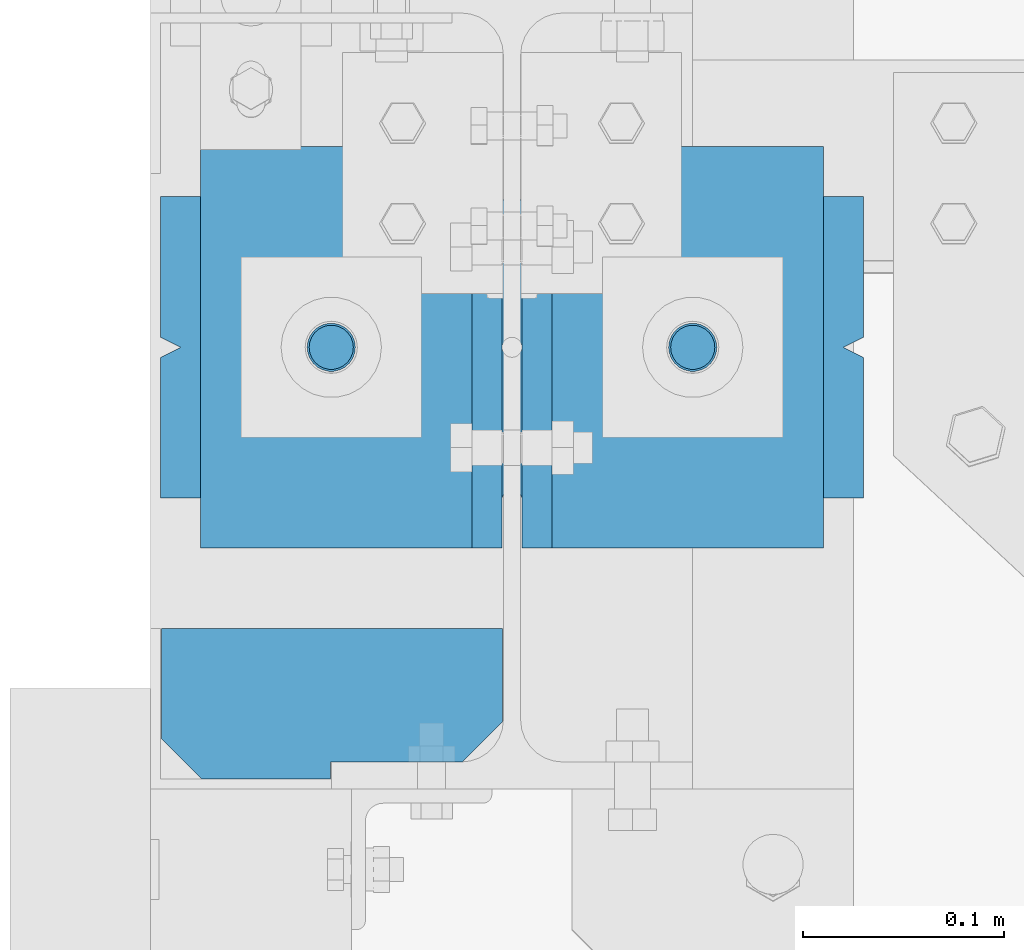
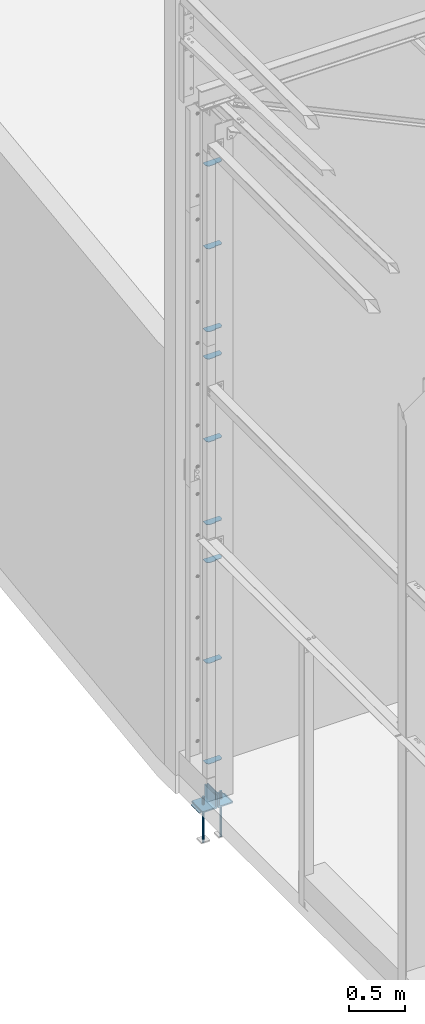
# One storey, part 79 of 362: 16 beams, 4 elements without a shape of their own.
"""IFC2X3 building model written with IfcOpenShell, lengths in millimetres."""

from ifc_helpers import new_model, si_unit, frame, origin_with_axes, origin_2d_with_axis, place, context, subcontext, project, spatial, polyline, rectangle, circle, l_section, outline, extrude, boolean, material, type_object, element, aggregate, save


model = new_model("IFC2X3")

# Units and contexts
model_context = context("Model", 3, precision=1e-05, world=origin_with_axes())
body_context = subcontext(model_context, "Body", "Model", "MODEL_VIEW")
ifc_project = project(units=[si_unit("LENGTHUNIT", "METRE", prefix="MILLI"), si_unit("AREAUNIT", "SQUARE_METRE"), si_unit("VOLUMEUNIT", "CUBIC_METRE"), si_unit("MASSUNIT", "GRAM", prefix="KILO"), si_unit("TIMEUNIT", "SECOND"), si_unit("PLANEANGLEUNIT", "RADIAN"), si_unit("SOLIDANGLEUNIT", "STERADIAN"), si_unit("THERMODYNAMICTEMPERATUREUNIT", "DEGREE_CELSIUS"), si_unit("LUMINOUSINTENSITYUNIT", "LUMEN")], contexts=[model_context])

# Site, building, storey
site_placement = place(None, origin_with_axes())
site = spatial("IfcSite", under=ifc_project, at=site_placement, Name="Undefined", CompositionType="ELEMENT")
building_placement = place(site_placement, origin_with_axes())
building = spatial("IfcBuilding", under=site, at=building_placement, Name="Undefined", CompositionType="ELEMENT")
storey_placement = place(building_placement, origin_with_axes())
storey = spatial("IfcBuildingStorey", under=building, at=storey_placement, Name="Undefined", CompositionType="ELEMENT", Elevation=0.0)

# Assembly, beams
assembly_1_placement = place(storey_placement, origin_with_axes())
assembly_1 = element("IfcElementAssembly", 1, at=assembly_1_placement, inside=storey, Name="PRESCELLEMENT PS24", AssemblyPlace="NOTDEFINED", PredefinedType="NOTDEFINED")
ifc_material = material(Name="Undefined/S235-E24")
beam_type_1 = type_object("IfcBeamType", Name="D24", PredefinedType="NOTDEFINED")
beam_1_placement = place(assembly_1_placement, frame((-90.0028495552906, 15109.9999996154, -100.0), z_axis=(0.0, 1.0, 0.0), x_axis=(0.0, 0.0, -1.0)))
beam_1 = element("IfcBeam", 2, at=beam_1_placement, type_object=beam_type_1, material=ifc_material, Name="TIGE D'ANCRAGE", ObjectType="D24", context=body_context, shape_type="SweptSolid", body=[
    extrude(circle(Radius=12.0, at=origin_2d_with_axis()), frame((150.0, 0.0, 0.0), z_axis=(-1.0, 0.0, 0.0), x_axis=(0.0, -1.0, 0.0)), (0.0, 0.0, 1.0), 150.0),
])
beam_2_placement = place(assembly_1_placement, frame((89.9971504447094, 15109.9999996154, -100.0), z_axis=(0.0, 1.0, 0.0), x_axis=(0.0, 0.0, -1.0)))
beam_2 = element("IfcBeam", 3, at=beam_2_placement, type_object=beam_type_1, material=ifc_material, Name="TIGE D'ANCRAGE", ObjectType="D24", context=body_context, shape_type="SweptSolid", body=[
    extrude(circle(Radius=12.0, at=origin_2d_with_axis()), frame((150.0, 0.0, 0.0), z_axis=(-1.0, 0.0, 0.0), x_axis=(0.0, -1.0, 0.0)), (0.0, 0.0, 1.0), 150.0),
])
beam_type_2 = type_object("IfcBeamType", Name="D22", PredefinedType="NOTDEFINED")
beam_3_placement = place(assembly_1_placement, frame((-90.0028495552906, 15109.9999996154, -250.0), z_axis=(0.0, 1.0, 0.0), x_axis=(0.0, 0.0, -1.0)))
beam_3 = element("IfcBeam", 4, at=beam_3_placement, type_object=beam_type_2, material=ifc_material, Name="TIGE D'ANCRAGE", ObjectType="D22", context=body_context, shape_type="SweptSolid", body=[
    extrude(circle(Radius=11.0, at=origin_2d_with_axis()), frame((350.0, 0.0, 0.0), z_axis=(-1.0, 0.0, 0.0), x_axis=(0.0, -1.0, 0.0)), (0.0, 0.0, 1.0), 350.0),
])
beam_4_placement = place(assembly_1_placement, frame((89.9971504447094, 15109.9999996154, -250.0), z_axis=(0.0, 1.0, 0.0), x_axis=(0.0, 0.0, -1.0)))
beam_4 = element("IfcBeam", 5, at=beam_4_placement, type_object=beam_type_2, material=ifc_material, Name="TIGE D'ANCRAGE", ObjectType="D22", context=body_context, shape_type="SweptSolid", body=[
    extrude(circle(Radius=11.0, at=origin_2d_with_axis()), frame((350.0, 0.0, 0.0), z_axis=(-1.0, 0.0, 0.0), x_axis=(0.0, -1.0, 0.0)), (0.0, 0.0, 1.0), 350.0),
])
beam_type_3 = type_object("IfcBeamType", Name="PL10*150", PredefinedType="NOTDEFINED")
beam_5_placement = place(assembly_1_placement, frame((175.0, 15109.9999996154, -205.0), z_axis=(0.0, -1.0, 0.0), x_axis=(-1.0, 0.0, 0.0)))
beam_5 = element("IfcBeam", 6, at=beam_5_placement, type_object=beam_type_3, material=ifc_material, Name="PRESCELLEMENT PS24", ObjectType="PL10*150", context=body_context, shape_type="CSG", body=[
    boolean("DIFFERENCE", boolean("DIFFERENCE", boolean("DIFFERENCE", boolean("DIFFERENCE", extrude(rectangle(XDim=10.0, YDim=150.0, at=origin_2d_with_axis()), frame((350.0, 0.0, 0.0), z_axis=(-1.0, 0.0, 0.0), x_axis=(0.0, -1.0, 0.0)), (0.0, 0.0, 1.0), 350.0), extrude(outline(polyline([(0.0, 0.0), (11.1803398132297, 1.2732925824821e-11), (4.47213602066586, 8.94427204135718), (0.0, 0.0)])), frame((0.0, 7.5, -5.0), z_axis=(0.0, -1.0, 0.0), x_axis=(0.894427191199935, 0.0, 0.44721359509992)), (0.0, 0.0, 1.0), 15.0)), extrude(outline(polyline([(0.0, 0.0), (11.1803398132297, 1.2732925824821e-11), (4.47213602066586, 8.94427204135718), (0.0, 0.0)])), frame((180.0, 7.5, -75.0), z_axis=(0.0, -1.0, 0.0), x_axis=(-0.447213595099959, 0.0, 0.894427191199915)), (0.0, 0.0, 1.0), 15.0)), extrude(outline(polyline([(0.0, 0.0), (11.1803398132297, 1.2732925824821e-11), (6.70820379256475, 8.94427204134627), (0.0, 0.0)])), frame((340.0, 7.5, 0.0), z_axis=(0.0, -1.0, 0.0), x_axis=(0.894427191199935, 0.0, -0.44721359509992)), (0.0, 0.0, 1.0), 15.0)), extrude(outline(polyline([(0.0, 0.0), (11.1803398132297, 1.2732925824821e-11), (4.47213602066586, 8.94427204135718), (0.0, 0.0)])), frame((170.0, 7.5, 75.0), z_axis=(0.0, -1.0, 0.0), x_axis=(0.447213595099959, 0.0, -0.894427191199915)), (0.0, 0.0, 1.0), 15.0)),
])
aggregate(assembly_1, [beam_1, beam_3, beam_2, beam_4, beam_5])

assembly_2_placement = place(storey_placement, origin_with_axes())
assembly_2 = element("IfcElementAssembly", 7, at=assembly_2_placement, inside=storey, Name="POTEAU", AssemblyPlace="NOTDEFINED", PredefinedType="NOTDEFINED")
beam_type_4 = type_object("IfcBeamType", Name="PL5*75", PredefinedType="NOTDEFINED")
beam_6_placement = place(assembly_2_placement, frame((-90.4999965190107, 14894.9999950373, 6035.00000055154), z_axis=(0.0, 0.0, 1.0), x_axis=(0.0, 1.0, 0.0)))
beam_6 = element("IfcBeam", 8, at=beam_6_placement, type_object=beam_type_4, material=ifc_material, Name="RAIDISSEUR", ObjectType="PL5*75", context=body_context, shape_type="SweptSolid", body=[
    extrude(outline(polyline([(0.0, 0.0), (8.50000476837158, -7.37543359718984e-12), (8.50000476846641, -65.6999969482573), (28.5000047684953, -85.6999969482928), (75.0000076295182, -85.6999969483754), (75.0000076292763, 84.0000305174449), (20.0000001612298, 84.0000305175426), (1.22841738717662e-07, 64.0000305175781), (0.0, 0.0)])), frame((0.0, 0.0, -2.5), z_axis=(0.0, 0.0, 1.0), x_axis=(1.0, 0.0, 0.0)), (0.0, 0.0, 1.0), 5.0),
])
beam_7_placement = place(assembly_2_placement, frame((-90.4999965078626, 14895.0002723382, 3924.99998199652), z_axis=(0.0, 0.0, 1.0), x_axis=(0.0, 1.0, 0.0)))
beam_7 = element("IfcBeam", 9, at=beam_7_placement, type_object=beam_type_4, material=ifc_material, Name="RAIDISSEUR", ObjectType="PL5*75", context=body_context, shape_type="SweptSolid", body=[
    extrude(outline(polyline([(0.0, 0.0), (8.50000476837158, -7.37543359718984e-12), (8.50000476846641, -65.6999969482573), (28.5000047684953, -85.6999969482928), (75.0000076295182, -85.6999969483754), (75.0000076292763, 84.0000305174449), (20.0000001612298, 84.0000305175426), (1.22841738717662e-07, 64.0000305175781), (0.0, 0.0)])), frame((0.0, 0.0, -2.5), z_axis=(0.0, 0.0, 1.0), x_axis=(1.0, 0.0, 0.0)), (0.0, 0.0, 1.0), 5.0),
])
beam_8_placement = place(assembly_2_placement, frame((-90.4999965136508, 14894.9999997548, 1505.00000012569), z_axis=(0.0, 0.0, 1.0), x_axis=(0.0, 1.0, 0.0)))
beam_8 = element("IfcBeam", 10, at=beam_8_placement, type_object=beam_type_4, material=ifc_material, Name="RAIDISSEUR", ObjectType="PL5*75", context=body_context, shape_type="SweptSolid", body=[
    extrude(outline(polyline([(0.0, 0.0), (8.50000476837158, -7.37543359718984e-12), (8.50000476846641, -65.6999969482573), (28.5000047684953, -85.6999969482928), (75.0000076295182, -85.6999969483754), (75.0000076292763, 84.0000305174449), (20.0000001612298, 84.0000305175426), (1.22841738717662e-07, 64.0000305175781), (0.0, 0.0)])), frame((0.0, 0.0, -2.5), z_axis=(0.0, 0.0, 1.0), x_axis=(1.0, 0.0, 0.0)), (0.0, 0.0, 1.0), 5.0),
])
beam_9_placement = place(assembly_2_placement, frame((-90.4999965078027, 14894.9999980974, 2605.00000071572), z_axis=(0.0, 0.0, 1.0), x_axis=(0.0, 1.0, 0.0)))
beam_9 = element("IfcBeam", 11, at=beam_9_placement, type_object=beam_type_4, material=ifc_material, Name="RAIDISSEUR", ObjectType="PL5*75", context=body_context, shape_type="SweptSolid", body=[
    extrude(outline(polyline([(0.0, 0.0), (8.50000476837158, -7.37543359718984e-12), (8.50000476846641, -65.6999969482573), (28.5000047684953, -85.6999969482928), (75.0000076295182, -85.6999969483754), (75.0000076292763, 84.0000305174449), (20.0000001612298, 84.0000305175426), (1.22841738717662e-07, 64.0000305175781), (0.0, 0.0)])), frame((0.0, 0.0, -2.5), z_axis=(0.0, 0.0, 1.0), x_axis=(1.0, 0.0, 0.0)), (0.0, 0.0, 1.0), 5.0),
])
beam_10_placement = place(assembly_2_placement, frame((-90.4999965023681, 14895.0000014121, 404.999999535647), z_axis=(0.0, 0.0, 1.0), x_axis=(0.0, 1.0, 0.0)))
beam_10 = element("IfcBeam", 12, at=beam_10_placement, type_object=beam_type_4, material=ifc_material, Name="RAIDISSEUR", ObjectType="PL5*75", context=body_context, shape_type="SweptSolid", body=[
    extrude(outline(polyline([(0.0, 0.0), (8.50000476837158, -7.37543359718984e-12), (8.50000476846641, -65.6999969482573), (28.5000047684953, -85.6999969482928), (75.0000076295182, -85.6999969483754), (75.0000076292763, 84.0000305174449), (20.0000001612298, 84.0000305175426), (1.22841738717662e-07, 64.0000305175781), (0.0, 0.0)])), frame((0.0, 0.0, -2.5), z_axis=(0.0, 0.0, 1.0), x_axis=(1.0, 0.0, 0.0)), (0.0, 0.0, 1.0), 5.0),
])
beam_11_placement = place(assembly_2_placement, frame((-90.4999965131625, 14895.0000045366, 6939.99998843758), z_axis=(0.0, 0.0, 1.0), x_axis=(0.0, 1.0, 0.0)))
beam_11 = element("IfcBeam", 13, at=beam_11_placement, type_object=beam_type_4, material=ifc_material, Name="RAIDISSEUR", ObjectType="PL5*75", context=body_context, shape_type="SweptSolid", body=[
    extrude(outline(polyline([(0.0, 0.0), (8.50000476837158, -7.37543359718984e-12), (8.50000476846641, -65.6999969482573), (28.5000047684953, -85.6999969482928), (75.0000076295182, -85.6999969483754), (75.0000076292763, 84.0000305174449), (20.0000001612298, 84.0000305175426), (1.22841738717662e-07, 64.0000305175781), (0.0, 0.0)])), frame((0.0, 0.0, -2.5), z_axis=(0.0, 0.0, 1.0), x_axis=(1.0, 0.0, 0.0)), (0.0, 0.0, 1.0), 5.0),
])
beam_12_placement = place(assembly_2_placement, frame((-90.4999965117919, 14894.9999207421, 5130.00000007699), z_axis=(0.0, 0.0, 1.0), x_axis=(0.0, 1.0, 0.0)))
beam_12 = element("IfcBeam", 14, at=beam_12_placement, type_object=beam_type_4, material=ifc_material, Name="RAIDISSEUR", ObjectType="PL5*75", context=body_context, shape_type="SweptSolid", body=[
    extrude(outline(polyline([(0.0, 0.0), (8.50000476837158, -7.37543359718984e-12), (8.50000476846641, -65.6999969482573), (28.5000047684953, -85.6999969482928), (75.0000076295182, -85.6999969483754), (75.0000076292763, 84.0000305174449), (20.0000001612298, 84.0000305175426), (1.22841738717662e-07, 64.0000305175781), (0.0, 0.0)])), frame((0.0, 0.0, -2.5), z_axis=(0.0, 0.0, 1.0), x_axis=(1.0, 0.0, 0.0)), (0.0, 0.0, 1.0), 5.0),
])
beam_13_placement = place(assembly_2_placement, frame((-90.4999965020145, 14895.00054377, 4829.99996391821), z_axis=(0.0, 0.0, 1.0), x_axis=(0.0, 1.0, 0.0)))
beam_13 = element("IfcBeam", 15, at=beam_13_placement, type_object=beam_type_4, material=ifc_material, Name="RAIDISSEUR", ObjectType="PL5*75", context=body_context, shape_type="SweptSolid", body=[
    extrude(outline(polyline([(0.0, 0.0), (8.50000476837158, -7.37543359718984e-12), (8.50000476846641, -65.6999969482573), (28.5000047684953, -85.6999969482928), (75.0000076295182, -85.6999969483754), (75.0000076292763, 84.0000305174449), (20.0000001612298, 84.0000305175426), (1.22841738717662e-07, 64.0000305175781), (0.0, 0.0)])), frame((0.0, 0.0, -2.5), z_axis=(0.0, 0.0, 1.0), x_axis=(1.0, 0.0, 0.0)), (0.0, 0.0, 1.0), 5.0),
])
beam_14_placement = place(assembly_2_placement, frame((-90.4999964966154, 14895.0000009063, 3020.00000007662), z_axis=(0.0, 0.0, 1.0), x_axis=(0.0, 1.0, 0.0)))
beam_14 = element("IfcBeam", 16, at=beam_14_placement, type_object=beam_type_4, material=ifc_material, Name="RAIDISSEUR", ObjectType="PL5*75", context=body_context, shape_type="SweptSolid", body=[
    extrude(outline(polyline([(0.0, 0.0), (8.50000476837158, -7.37543359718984e-12), (8.50000476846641, -65.6999969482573), (28.5000047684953, -85.6999969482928), (75.0000076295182, -85.6999969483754), (75.0000076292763, 84.0000305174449), (20.0000001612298, 84.0000305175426), (1.22841738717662e-07, 64.0000305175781), (0.0, 0.0)])), frame((0.0, 0.0, -2.5), z_axis=(0.0, 0.0, 1.0), x_axis=(1.0, 0.0, 0.0)), (0.0, 0.0, 1.0), 5.0),
])
aggregate(assembly_2, [beam_6, beam_7, beam_8, beam_9, beam_10, beam_11, beam_12, beam_13, beam_14])

# Assembly, beam
assembly_3_placement = place(storey_placement, origin_with_axes())
assembly_3 = element("IfcElementAssembly", 17, at=assembly_3_placement, inside=storey, AssemblyPlace="NOTDEFINED", PredefinedType="NOTDEFINED")
beam_type_5 = type_object("IfcBeamType", Name="L150*15", PredefinedType="NOTDEFINED")
beam_15_placement = place(assembly_3_placement, frame((-80.0028489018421, 15210.0000024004, -124.999999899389), z_axis=(0.0, 0.0, 1.0), x_axis=(0.0, -1.0, 0.0)))
beam_15 = element("IfcBeam", 18, at=beam_15_placement, type_object=beam_type_5, material=ifc_material, Name="ATTACHE", ObjectType="L150*15", context=body_context, shape_type="SweptSolid", body=[
    extrude(l_section(Depth=150.0, Width=150.0, Thickness=15.0, FilletRadius=16.0, EdgeRadius=8.0, at=origin_2d_with_axis()), frame((200.0, 0.0, 0.0), z_axis=(-1.0, 0.0, 0.0), x_axis=(0.0, -1.0, 0.0)), (0.0, 0.0, 1.0), 200.0),
])
aggregate(assembly_3, [beam_15])

assembly_4_placement = place(storey_placement, origin_with_axes())
assembly_4 = element("IfcElementAssembly", 19, at=assembly_4_placement, inside=storey, AssemblyPlace="NOTDEFINED", PredefinedType="NOTDEFINED")
beam_16_placement = place(assembly_4_placement, frame((79.9971510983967, 15010.0000024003, -124.999999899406), z_axis=(0.0, 0.0, 1.0), x_axis=(0.0, 1.0, 0.0)))
beam_16 = element("IfcBeam", 20, at=beam_16_placement, type_object=beam_type_5, material=ifc_material, Name="ATTACHE", ObjectType="L150*15", context=body_context, shape_type="SweptSolid", body=[
    extrude(l_section(Depth=150.0, Width=150.0, Thickness=15.0, FilletRadius=16.0, EdgeRadius=8.0, at=origin_2d_with_axis()), frame((200.0, 0.0, 0.0), z_axis=(-1.0, 0.0, 0.0), x_axis=(0.0, -1.0, 0.0)), (0.0, 0.0, 1.0), 200.0),
])
aggregate(assembly_4, [beam_16])

save(model, "model.ifc")
